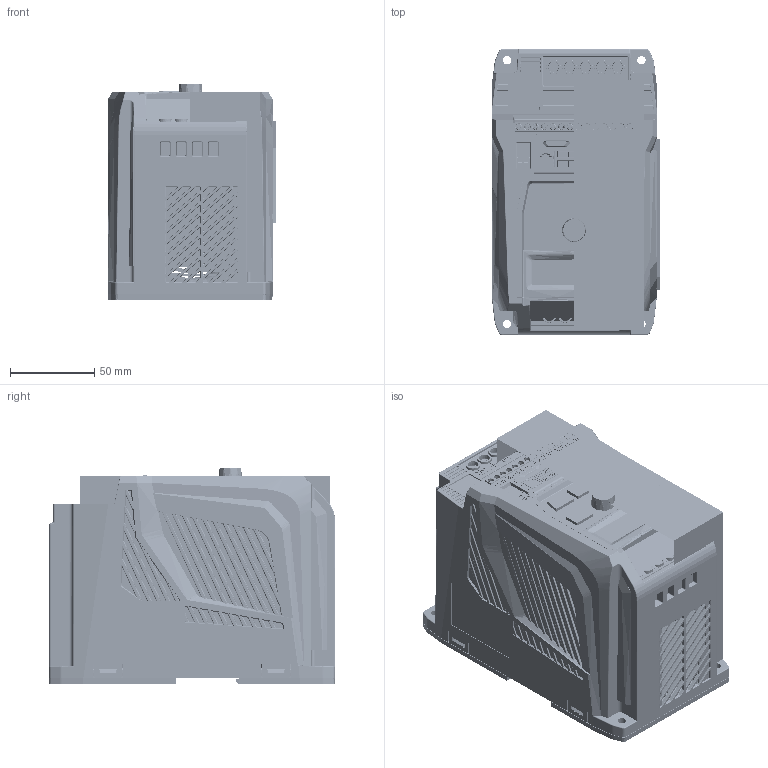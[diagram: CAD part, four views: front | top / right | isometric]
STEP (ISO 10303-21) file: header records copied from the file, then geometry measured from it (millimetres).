
FILE_DESCRIPTION((''),'2;1');
FILE_NAME('CA100-5R5A_ASM','2024-05-29T',('Administrator'),(''),'PRO/ENGINEER BY PARAMETRIC TECHNOLOGY CORPORATION, 2011310','PRO/ENGINEER BY PARAMETRIC TECHNOLOGY CORPORATION, 2011310','');
FILE_SCHEMA(('AUTOMOTIVE_DESIGN_CC2 { 1 2 10303 214 -1 1 5 2 }'));
Products named in the file (37): CA100-4R0A-SR-01; CA100-5R5A-SR-01; 6025; QJ_ASM; QDB; DRI; 6912184100XX_MASS; 6912184100XX_PIN; 6912184100XX_VIS; 691218410003; ASSEM1_ASM; EU5-03-952_ASM; QDB_ASM; 2R2-CM; EU1_5-14-5_08-00_1_; LED; DWQ_2; ANJIAN; BM; 485; 2R2-CM_ASM; DRB; DR; DRB_ASM; PCB_ASM; CA100-5R5A-SJ-01; CA100-5R5A-SJ-02; CA100-5R5A-SJ-01-; CA100-5R5A-SJ_ASM; CA100-2R2A-SJ-05_45; CA100-2R2A-SJ-06_23; CA100-2R2A-SJ-03_22; JIANPAN99_ASM_17_ASM; JIANPAN99_ASM_ASM; CA100-2R2A-SJ-04; AA; CA100-5R5A_ASM
Assembly tree (49 placements, depth 6):
  CA100-5R5A_ASM
    CA100-4R0A-SR-01
    CA100-5R5A-SR-01
    QJ_ASM
      6025
    PCB_ASM
      QDB_ASM
        QDB
        DRI
        EU5-03-952_ASM  x9
          ASSEM1_ASM
            6912184100XX_MASS
            6912184100XX_PIN
            6912184100XX_VIS
            691218410003
      2R2-CM_ASM
        2R2-CM
        EU1_5-14-5_08-00_1_
        LED
        DWQ_2
        ANJIAN  x5
        BM  x2
        485
      DRB_ASM
        DRB
        DR
    CA100-5R5A-SJ_ASM
      CA100-5R5A-SJ-01
      CA100-5R5A-SJ-02
      CA100-5R5A-SJ-01-
    JIANPAN99_ASM_ASM
      JIANPAN99_ASM_17_ASM
        CA100-2R2A-SJ-05_45
        CA100-2R2A-SJ-06_23
        CA100-2R2A-SJ-03_22
    CA100-2R2A-SJ-04
    AA
Bounding box: 100.06 x 170 x 128 mm (x, y, z)
Volume: 907986.3 mm3; surface area: 947849.1 mm2
Topology: 75 solids, 125 shells, 10640 faces, 28184 edges, 18117 vertices
Faces by surface type: plane 5825, cylinder 2683, bspline 1239, cone 361, torus 325, extrusion 154, sphere 53
Entity records: 419068 total; most frequent: CARTESIAN_POINT 122018, ORIENTED_EDGE 48893, DIRECTION 40007, EDGE_CURVE 24597, PRESENTATION_STYLE_ASSIGNMENT 23905, STYLED_ITEM 23253, CURVE_STYLE 22852, VERTEX_POINT 15795
